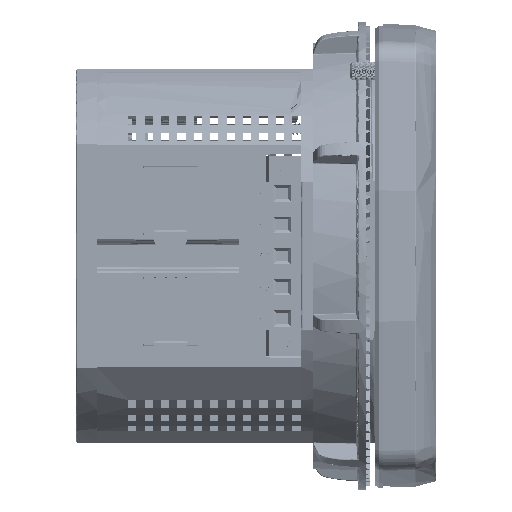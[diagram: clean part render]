
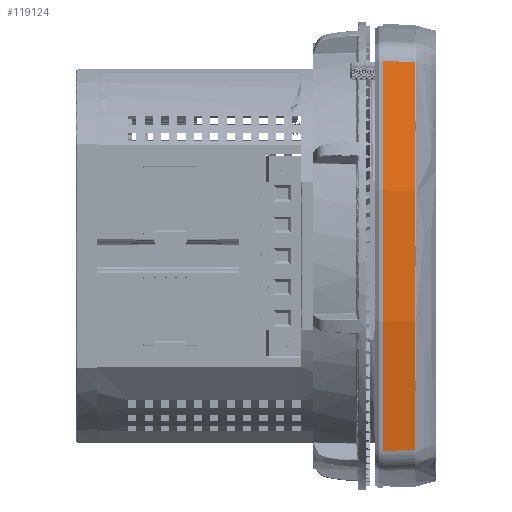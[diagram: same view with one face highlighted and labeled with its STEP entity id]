
A CAD part, left-side view. The second image highlights one B-rep face of the part: STEP entity #119124.
In plain terms, the highlighted free-form (B-spline) face has degree [2, 1] with [9, 2] control points.
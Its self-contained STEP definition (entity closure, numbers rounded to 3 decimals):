
#119124=ADVANCED_FACE('',(#128981),#351432,.T.);
#128981=FACE_OUTER_BOUND('',#139099,.T.);
#139099=EDGE_LOOP('',(#166374,#166375,#166376,#166377));
#166374=ORIENTED_EDGE('',*,*,#217218,.T.);
#166375=ORIENTED_EDGE('',*,*,#217219,.T.);
#166376=ORIENTED_EDGE('',*,*,#217220,.T.);
#166377=ORIENTED_EDGE('',*,*,#217221,.T.);
#217218=EDGE_CURVE('',#318896,#318897,#260166,.T.);
#217219=EDGE_CURVE('',#318897,#318898,#260167,.T.);
#217220=EDGE_CURVE('',#318898,#318899,#260168,.T.);
#217221=EDGE_CURVE('',#318899,#318896,#289944,.T.);
#260166=B_SPLINE_CURVE_WITH_KNOTS('',1,(#825479,#825480),.UNSPECIFIED.,
 .F.,.F.,(2,2),(-7.794,0.),.UNSPECIFIED.);
#260167=B_SPLINE_CURVE_WITH_KNOTS('',3,(#825481,#825482,#825483,#825484,
#825485,#825486,#825487,#825488,#825489,#825490,#825491,#825492,#825493,
#825494,#825495,#825496,#825497,#825498),.UNSPECIFIED.,.F.,.F.,(4,2,2,2,
2,2,2,2,4),(-1.,-0.875,-0.75,-0.625,
-0.5,-0.375,-0.25,-0.125,
0.),.UNSPECIFIED.);
#260168=B_SPLINE_CURVE_WITH_KNOTS('',1,(#825499,#825500),.UNSPECIFIED.,
 .F.,.F.,(2,2),(0.,7.794),.UNSPECIFIED.);
#289944=(
BOUNDED_CURVE()
B_SPLINE_CURVE(2,(#825501,#825502,#825503),.UNSPECIFIED.,.F.,.F.)
B_SPLINE_CURVE_WITH_KNOTS((3,3),(0.,95.576),.UNSPECIFIED.)
CURVE()
GEOMETRIC_REPRESENTATION_ITEM()
RATIONAL_B_SPLINE_CURVE((1.,0.977,1.))
REPRESENTATION_ITEM('')
);
#318896=VERTEX_POINT('',#825475);
#318897=VERTEX_POINT('',#825476);
#318898=VERTEX_POINT('',#825477);
#318899=VERTEX_POINT('',#825478);
#351432=(
BOUNDED_SURFACE()
B_SPLINE_SURFACE(2,1,((#825457,#825458),(#825459,#825460),(#825461,#825462),
(#825463,#825464),(#825465,#825466),(#825467,#825468),(#825469,#825470),
(#825471,#825472),(#825473,#825474)),.UNSPECIFIED.,.T.,.F.,.F.)
B_SPLINE_SURFACE_WITH_KNOTS((3,2,2,2,3),(2,2),(0.,348.781,697.562,
1046.343,1395.124),(0.,9.353),.UNSPECIFIED.)
GEOMETRIC_REPRESENTATION_ITEM()
RATIONAL_B_SPLINE_SURFACE(((1.,1.),(0.707,0.707),
(1.,1.),(0.707,0.707),(1.,1.),(0.707,
0.707),(1.,1.),(0.707,0.707),(1.,1.)))
REPRESENTATION_ITEM('')
SURFACE()
);
#825457=CARTESIAN_POINT('',(164.4,8.562,-221.551));
#825458=CARTESIAN_POINT('',(164.4,-0.779,-222.041));
#825459=CARTESIAN_POINT('',(385.951,8.562,-221.551));
#825460=CARTESIAN_POINT('',(386.441,-0.779,-222.041));
#825461=CARTESIAN_POINT('',(385.951,8.562,0.));
#825462=CARTESIAN_POINT('',(386.441,-0.779,0.));
#825463=CARTESIAN_POINT('',(385.951,8.562,221.551));
#825464=CARTESIAN_POINT('',(386.441,-0.779,222.041));
#825465=CARTESIAN_POINT('',(164.4,8.562,221.551));
#825466=CARTESIAN_POINT('',(164.4,-0.779,222.041));
#825467=CARTESIAN_POINT('',(-57.151,8.562,221.551));
#825468=CARTESIAN_POINT('',(-57.641,-0.779,222.041));
#825469=CARTESIAN_POINT('',(-57.151,8.562,0.));
#825470=CARTESIAN_POINT('',(-57.641,-0.779,0.));
#825471=CARTESIAN_POINT('',(-57.151,8.562,-221.551));
#825472=CARTESIAN_POINT('',(-57.641,-0.779,-222.041));
#825473=CARTESIAN_POINT('',(164.4,8.562,-221.551));
#825474=CARTESIAN_POINT('',(164.4,-0.779,-222.041));
#825475=CARTESIAN_POINT('',(-52.476,0.,47.42));
#825476=CARTESIAN_POINT('',(-52.077,7.783,47.332));
#825477=CARTESIAN_POINT('',(-52.077,7.783,-47.332));
#825478=CARTESIAN_POINT('',(-52.476,0.,-47.42));
#825479=CARTESIAN_POINT('',(-52.476,0.,47.42));
#825480=CARTESIAN_POINT('',(-52.077,7.783,47.332));
#825481=CARTESIAN_POINT('',(-52.077,7.783,47.332));
#825482=CARTESIAN_POINT('',(-52.926,7.779,43.449));
#825483=CARTESIAN_POINT('',(-53.671,7.775,39.543));
#825484=CARTESIAN_POINT('',(-54.949,7.769,31.697));
#825485=CARTESIAN_POINT('',(-55.483,7.767,27.756));
#825486=CARTESIAN_POINT('',(-56.337,7.763,19.852));
#825487=CARTESIAN_POINT('',(-56.658,7.762,15.889));
#825488=CARTESIAN_POINT('',(-57.086,7.76,7.95));
#825489=CARTESIAN_POINT('',(-57.193,7.759,3.975));
#825490=CARTESIAN_POINT('',(-57.193,7.759,-3.975));
#825491=CARTESIAN_POINT('',(-57.086,7.76,-7.95));
#825492=CARTESIAN_POINT('',(-56.658,7.762,-15.889));
#825493=CARTESIAN_POINT('',(-56.337,7.763,-19.852));
#825494=CARTESIAN_POINT('',(-55.483,7.767,-27.756));
#825495=CARTESIAN_POINT('',(-54.949,7.769,-31.697));
#825496=CARTESIAN_POINT('',(-53.671,7.775,-39.543));
#825497=CARTESIAN_POINT('',(-52.926,7.779,-43.449));
#825498=CARTESIAN_POINT('',(-52.077,7.783,-47.332));
#825499=CARTESIAN_POINT('',(-52.077,7.783,-47.332));
#825500=CARTESIAN_POINT('',(-52.476,0.,-47.42));
#825501=CARTESIAN_POINT('',(-52.476,0.,-47.42));
#825502=CARTESIAN_POINT('',(-62.845,0.,0.));
#825503=CARTESIAN_POINT('',(-52.476,0.,47.42));
